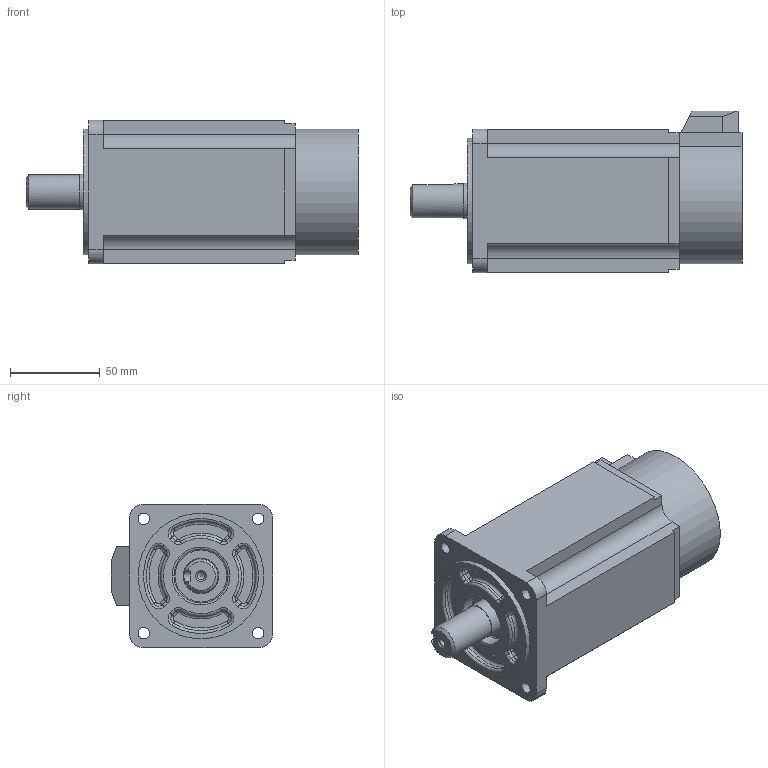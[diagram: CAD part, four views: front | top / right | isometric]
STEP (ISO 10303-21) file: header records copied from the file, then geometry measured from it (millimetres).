
FILE_DESCRIPTION(('STEP AP214'), '1');
FILE_NAME('80ST-M02430 - SERVOMOTOR', '', ('UNSPECIFIED'), ('UNSPECIFIED'), 'ASCON STEP Converter 1.3', 'ASCON Math Kernel', '');
FILE_SCHEMA(('AUTOMOTIVE_DESIGN { 1 0 10303 214 3 1 1}'));
Length unit declared in the file: millimetre
Products named in the file (1): YK-80ST-M02430
Bounding box: 185 x 90 x 80 mm (x, y, z)
Volume: 789975.2 mm3; surface area: 62920.6 mm2
Topology: 1 solids, 1 shells, 170 faces, 408 edges, 249 vertices
Faces by surface type: cylinder 59, plane 57, torus 50, cone 4
Full cylindrical faces by diameter (mm): 4.134 x1, 6.5 x4, 19 x1, 19.8 x1, 30 x1, 70 x1
Entity records: 6383 total; most frequent: DIRECTION 935, CARTESIAN_POINT 917, ORIENTED_EDGE 786, EDGE_CURVE 393, AXIS2_PLACEMENT_3D 374, VERTEX_POINT 248, CIRCLE 203, EDGE_LOOP 201
